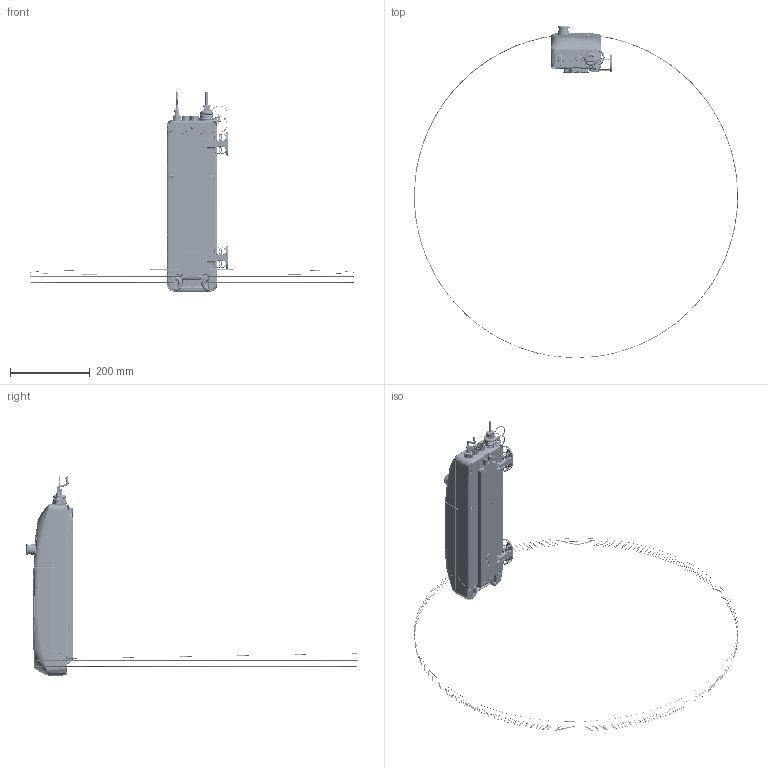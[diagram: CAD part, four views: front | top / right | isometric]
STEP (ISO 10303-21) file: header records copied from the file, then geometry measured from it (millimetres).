
FILE_DESCRIPTION((''),'2;1');
FILE_NAME('1','2014-06-05T',('tony'),(''),'PRO/ENGINEER BY PARAMETRIC TECHNOLOGY CORPORATION, 2008090','PRO/ENGINEER BY PARAMETRIC TECHNOLOGY CORPORATION, 2008090','');
FILE_SCHEMA(('CONFIG_CONTROL_DESIGN'));
Products named in the file (1): 1
Bounding box: 815.78 x 834.68 x 501.65 mm (x, y, z)
Surface area: 805462.5 mm2 (no closed solid volume)
Topology: 0 solids, 0 shells, 4509 faces, 24480 edges, 24090 vertices
Faces by surface type: bspline 4124, torus 343, sphere 42
Entity records: 436647 total; most frequent: CARTESIAN_POINT 241371, DIRECTION 27291, DEFINITIONAL_REPRESENTATION 23772, PCURVE 23772, COMPOSITE_CURVE_SEGMENT 23772, TRIMMED_CURVE 23505, VECTOR 20489, LINE 20489
